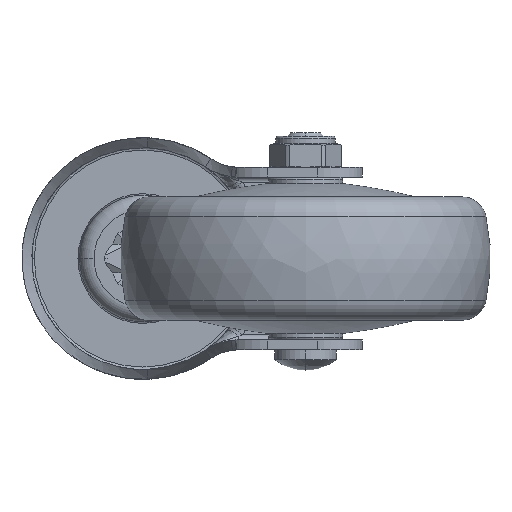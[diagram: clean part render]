
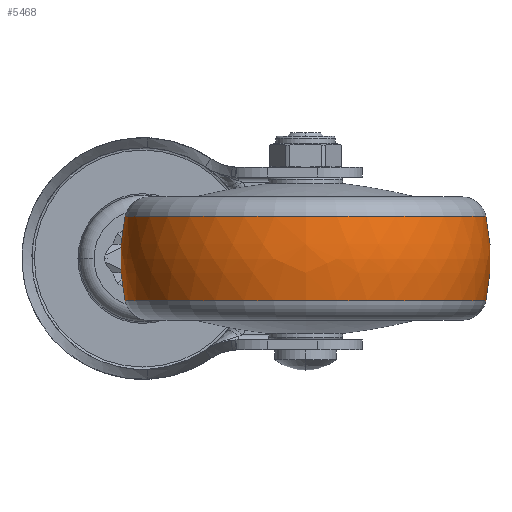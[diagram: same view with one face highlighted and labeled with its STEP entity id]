
A CAD part, front view. The second image highlights one B-rep face of the part: STEP entity #5468.
In plain terms, the highlighted free-form (B-spline) face has degree [3, 3] with [7, 4] control points.
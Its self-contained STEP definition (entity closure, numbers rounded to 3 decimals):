
#4741=CARTESIAN_POINT('',(-8.571,0.,0.));
#4742=DIRECTION('',(-1.,0.,0.));
#4743=DIRECTION('',(0.,1.,0.));
#4744=AXIS2_PLACEMENT_3D('',#4741,#4742,#4743);
#4756=CARTESIAN_POINT('',(0.,-2.5,0.));
#4757=DIRECTION('',(0.,0.,1.));
#4758=DIRECTION('',(0.214,0.977,0.));
#4759=AXIS2_PLACEMENT_3D('',#4756,#4757,#4758);
#4761=CARTESIAN_POINT('',(0.,2.5,0.));
#4762=DIRECTION('',(0.,0.,-1.));
#4763=DIRECTION('',(0.214,-0.977,0.));
#4764=AXIS2_PLACEMENT_3D('',#4761,#4762,#4763);
#4766=CARTESIAN_POINT('',(8.571,0.,0.));
#4767=DIRECTION('',(-1.,0.,0.));
#4768=DIRECTION('',(0.,1.,0.));
#4769=AXIS2_PLACEMENT_3D('',#4766,#4767,#4768);
#5332=CARTESIAN_POINT('',(8.571,36.571,0.));
#5334=VERTEX_POINT('',#5332);
#5335=CARTESIAN_POINT('',(-8.571,36.571,0.));
#5336=VERTEX_POINT('',#5335);
#5340=CARTESIAN_POINT('',(8.571,-36.571,0.));
#5342=VERTEX_POINT('',#5340);
#5343=CARTESIAN_POINT('',(-8.571,-36.571,0.));
#5344=VERTEX_POINT('',#5343);
#5432=CARTESIAN_POINT('',(-8.909,-36.423,
2.292));
#5433=CARTESIAN_POINT('',(-3.02,-37.766,
2.376));
#5434=CARTESIAN_POINT('',(3.02,-37.766,2.376));
#5435=CARTESIAN_POINT('',(8.909,-36.423,2.292));
#5436=CARTESIAN_POINT('',(-8.909,-37.834,
-20.123));
#5437=CARTESIAN_POINT('',(-3.02,-39.228,
-20.865));
#5438=CARTESIAN_POINT('',(3.02,-39.228,
-20.865));
#5439=CARTESIAN_POINT('',(8.909,-37.834,
-20.123));
#5440=CARTESIAN_POINT('',(-8.909,-22.459,
-36.495));
#5441=CARTESIAN_POINT('',(-3.02,-23.287,
-37.841));
#5442=CARTESIAN_POINT('',(3.02,-23.287,
-37.841));
#5443=CARTESIAN_POINT('',(8.909,-22.459,
-36.495));
#5444=CARTESIAN_POINT('',(-8.909,0.,
-36.495));
#5445=CARTESIAN_POINT('',(-3.02,0.,
-37.841));
#5446=CARTESIAN_POINT('',(3.02,0.,
-37.841));
#5447=CARTESIAN_POINT('',(8.909,0.,-36.495));
#5448=CARTESIAN_POINT('',(-8.909,22.459,
-36.495));
#5449=CARTESIAN_POINT('',(-3.02,23.287,
-37.841));
#5450=CARTESIAN_POINT('',(3.02,23.287,-37.841));
#5451=CARTESIAN_POINT('',(8.909,22.459,-36.495));
#5452=CARTESIAN_POINT('',(-8.909,37.834,
-20.123));
#5453=CARTESIAN_POINT('',(-3.02,39.228,
-20.865));
#5454=CARTESIAN_POINT('',(3.02,39.228,-20.865));
#5455=CARTESIAN_POINT('',(8.909,37.834,-20.123));
#5456=CARTESIAN_POINT('',(-8.909,36.423,2.292));
#5457=CARTESIAN_POINT('',(-3.02,37.766,2.376));
#5458=CARTESIAN_POINT('',(3.02,37.766,2.376));
#5459=CARTESIAN_POINT('',(8.909,36.423,2.292));
#5460=(BOUNDED_SURFACE()B_SPLINE_SURFACE(3,3,((#5432,#5433,#5434,#5435),(#5436,
#5437,#5438,#5439),(#5440,#5441,#5442,#5443),(#5444,#5445,#5446,#5447),(#5448,
#5449,#5450,#5451),(#5452,#5453,#5454,#5455),(#5456,#5457,#5458,#5459)),
.UNSPECIFIED.,.F.,.F.,.F.)B_SPLINE_SURFACE_WITH_KNOTS((4,3,4),(4,4),(0.,1.,
2.),(0.,1.),.UNSPECIFIED.)GEOMETRIC_REPRESENTATION_ITEM()RATIONAL_B_SPLINE_SURFACE(((1.202,1.182,1.182,1.202),(
0.95,0.934,0.934,0.95),(
0.95,0.934,0.934,0.95),(
1.202,1.182,1.182,1.202),(
0.95,0.934,0.934,0.95),(
0.95,0.934,0.934,0.95),(
1.202,1.182,1.182,1.202)))REPRESENTATION_ITEM('')SURFACE());
#5461=ORIENTED_EDGE('',*,*,#5422,.T.);
#5462=ORIENTED_EDGE('',*,*,#5375,.T.);
#5463=ORIENTED_EDGE('',*,*,#5426,.F.);
#5465=ORIENTED_EDGE('',*,*,#5464,.F.);
#5466=EDGE_LOOP('',(#5461,#5462,#5463,#5465));
#5467=FACE_OUTER_BOUND('',#5466,.F.);
#4745=CIRCLE('',#4744,36.571);
#4760=CIRCLE('',#4759,40.);
#4765=CIRCLE('',#4764,40.);
#4770=CIRCLE('',#4769,36.571);
#5375=EDGE_CURVE('',#5336,#5344,#4745,.T.);
#5422=EDGE_CURVE('',#5334,#5336,#4760,.T.);
#5426=EDGE_CURVE('',#5342,#5344,#4765,.T.);
#5464=EDGE_CURVE('',#5334,#5342,#4770,.T.);
#5468=ADVANCED_FACE('',(#5467),#5460,.T.);
